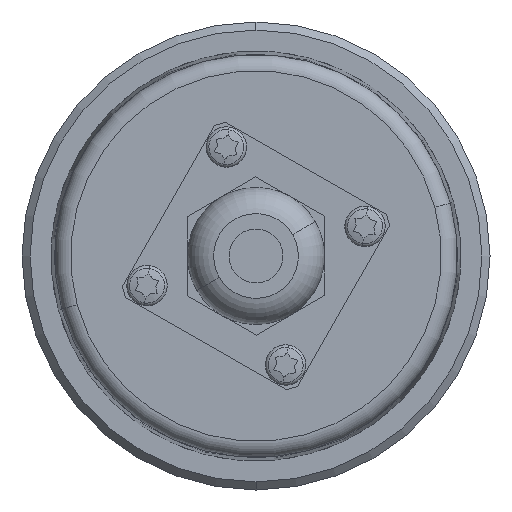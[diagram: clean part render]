
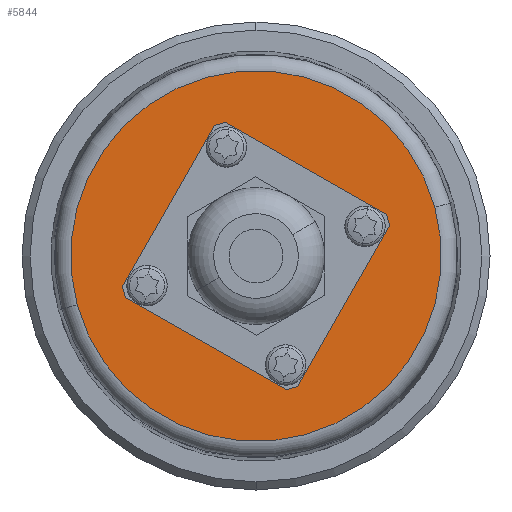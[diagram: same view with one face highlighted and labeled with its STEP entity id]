
A CAD part, left-side view. The second image highlights one B-rep face of the part: STEP entity #5844.
In plain terms, the highlighted planar face has unit normal (-1, 0, 0).
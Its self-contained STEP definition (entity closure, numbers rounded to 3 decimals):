
#44 = CARTESIAN_POINT ( 'NONE',  ( -21., 22.167, -6.03 ) ) ;
#45 = CARTESIAN_POINT ( 'NONE',  ( -21., -22.167, 6.03 ) ) ;
#46 = DIRECTION ( 'NONE',  ( 0., 0.965, -0.262 ) ) ;
#47 = DIRECTION ( 'NONE',  ( -1., 0., 0. ) ) ;
#48 = CARTESIAN_POINT ( 'NONE',  ( -21., 0., 0. ) ) ;
#49 = AXIS2_PLACEMENT_3D ( 'NONE', #48, #47, #46 ) ;
#50 = CIRCLE ( 'NONE', #49, 22.972 ) ;
#1053 = AXIS2_PLACEMENT_3D ( 'NONE', #1166, #1165, #1164 ) ;
#1054 = CIRCLE ( 'NONE', #1053, 1.389 ) ;
#1055 = CARTESIAN_POINT ( 'NONE',  ( -21., 3.675, 13.51 ) ) ;
#1056 = CARTESIAN_POINT ( 'NONE',  ( -21., 2.335, 13.874 ) ) ;
#1057 = CARTESIAN_POINT ( 'NONE',  ( -21., 5.015, 13.145 ) ) ;
#1058 = DIRECTION ( 'NONE',  ( 0., 0.965, -0.262 ) ) ;
#1059 = DIRECTION ( 'NONE',  ( 1., 0., 0. ) ) ;
#1060 = CARTESIAN_POINT ( 'NONE',  ( -21., 3.675, 13.51 ) ) ;
#1061 = AXIS2_PLACEMENT_3D ( 'NONE', #1060, #1059, #1058 ) ;
#1062 = CIRCLE ( 'NONE', #1061, 1.389 ) ;
#1063 = DIRECTION ( 'NONE',  ( 0., 0.965, -0.262 ) ) ;
#1064 = DIRECTION ( 'NONE',  ( 1., 0., 0. ) ) ;
#1065 = CARTESIAN_POINT ( 'NONE',  ( -21., 13.51, -3.675 ) ) ;
#1066 = AXIS2_PLACEMENT_3D ( 'NONE', #1065, #1064, #1063 ) ;
#1077 = CIRCLE ( 'NONE', #1066, 1.389 ) ;
#1078 = DIRECTION ( 'NONE',  ( 0., 0.965, -0.262 ) ) ;
#1079 = DIRECTION ( 'NONE',  ( 1., 0., 0. ) ) ;
#1080 = CARTESIAN_POINT ( 'NONE',  ( -21., 0., 0. ) ) ;
#1081 = AXIS2_PLACEMENT_3D ( 'NONE', #1080, #1079, #1078 ) ;
#1082 = PLANE ( 'NONE',  #1081 ) ;
#1094 = DIRECTION ( 'NONE',  ( 0., 0.965, -0.262 ) ) ;
#1095 = DIRECTION ( 'NONE',  ( 1., 0., 0. ) ) ;
#1096 = AXIS2_PLACEMENT_3D ( 'NONE', #1103, #1095, #1094 ) ;
#1097 = CIRCLE ( 'NONE', #1096, 1.389 ) ;
#1098 = DIRECTION ( 'NONE',  ( 0., 0.965, -0.262 ) ) ;
#1099 = DIRECTION ( 'NONE',  ( 1., 0., 0. ) ) ;
#1100 = CARTESIAN_POINT ( 'NONE',  ( -21., 13.51, -3.675 ) ) ;
#1101 = AXIS2_PLACEMENT_3D ( 'NONE', #1100, #1099, #1098 ) ;
#1102 = CIRCLE ( 'NONE', #1101, 1.389 ) ;
#1103 = CARTESIAN_POINT ( 'NONE',  ( -21., -3.675, -13.51 ) ) ;
#1104 = CARTESIAN_POINT ( 'NONE',  ( -21., 12.17, -3.31 ) ) ;
#1153 = CARTESIAN_POINT ( 'NONE',  ( -21., -14.85, 4.039 ) ) ;
#1154 = CARTESIAN_POINT ( 'NONE',  ( -21., -12.17, 3.31 ) ) ;
#1155 = DIRECTION ( 'NONE',  ( 0., 0.965, -0.262 ) ) ;
#1156 = DIRECTION ( 'NONE',  ( 1., 0., 0. ) ) ;
#1157 = CARTESIAN_POINT ( 'NONE',  ( -21., -13.51, 3.675 ) ) ;
#1158 = AXIS2_PLACEMENT_3D ( 'NONE', #1157, #1156, #1155 ) ;
#1159 = CIRCLE ( 'NONE', #1158, 1.389 ) ;
#1160 = DIRECTION ( 'NONE',  ( 0., 0.965, -0.262 ) ) ;
#1161 = DIRECTION ( 'NONE',  ( 1., 0., 0. ) ) ;
#1162 = AXIS2_PLACEMENT_3D ( 'NONE', #1055, #1161, #1160 ) ;
#1163 = CIRCLE ( 'NONE', #1162, 1.389 ) ;
#1164 = DIRECTION ( 'NONE',  ( 0., 0.965, -0.262 ) ) ;
#1165 = DIRECTION ( 'NONE',  ( 1., 0., 0. ) ) ;
#1166 = CARTESIAN_POINT ( 'NONE',  ( -21., -3.675, -13.51 ) ) ;
#1194 = FACE_BOUND ( 'NONE', #5912, .T. ) ;
#1195 = FACE_OUTER_BOUND ( 'NONE', #5908, .T. ) ;
#1196 = FACE_BOUND ( 'NONE', #5853, .T. ) ;
#1197 = FACE_BOUND ( 'NONE', #5848, .T. ) ;
#1198 = FACE_BOUND ( 'NONE', #5855, .T. ) ;
#1199 = FACE_BOUND ( 'NONE', #5845, .T. ) ;
#1252 = DIRECTION ( 'NONE',  ( 0., -0.965, 0.262 ) ) ;
#1253 = DIRECTION ( 'NONE',  ( -1., 0., 0. ) ) ;
#1254 = CARTESIAN_POINT ( 'NONE',  ( -21., 0., 0. ) ) ;
#1255 = AXIS2_PLACEMENT_3D ( 'NONE', #1254, #1253, #1252 ) ;
#1256 = CIRCLE ( 'NONE', #1255, 11.5 ) ;
#1258 = CARTESIAN_POINT ( 'NONE',  ( -21., 11.097, -3.018 ) ) ;
#1259 = CARTESIAN_POINT ( 'NONE',  ( -21., -11.097, 3.018 ) ) ;
#1405 = DIRECTION ( 'NONE',  ( 0., -0.965, 0.262 ) ) ;
#1406 = DIRECTION ( 'NONE',  ( -1., 0., 0. ) ) ;
#1407 = CARTESIAN_POINT ( 'NONE',  ( -21., 0., 0. ) ) ;
#1408 = AXIS2_PLACEMENT_3D ( 'NONE', #1407, #1406, #1405 ) ;
#1409 = CIRCLE ( 'NONE', #1408, 11.5 ) ;
#1410 = CARTESIAN_POINT ( 'NONE',  ( -21., 14.85, -4.039 ) ) ;
#1416 = CARTESIAN_POINT ( 'NONE',  ( -21., -5.015, -13.145 ) ) ;
#1417 = CARTESIAN_POINT ( 'NONE',  ( -21., -2.335, -13.874 ) ) ;
#1418 = DIRECTION ( 'NONE',  ( 0., 0.965, -0.262 ) ) ;
#1419 = DIRECTION ( 'NONE',  ( -1., 0., 0. ) ) ;
#1420 = CARTESIAN_POINT ( 'NONE',  ( -21., 0., 0. ) ) ;
#1421 = AXIS2_PLACEMENT_3D ( 'NONE', #1420, #1419, #1418 ) ;
#1422 = CIRCLE ( 'NONE', #1421, 22.972 ) ;
#1423 = DIRECTION ( 'NONE',  ( 0., 0.965, -0.262 ) ) ;
#1424 = DIRECTION ( 'NONE',  ( 1., 0., 0. ) ) ;
#1425 = AXIS2_PLACEMENT_3D ( 'NONE', #1431, #1424, #1423 ) ;
#1426 = CIRCLE ( 'NONE', #1425, 1.389 ) ;
#1431 = CARTESIAN_POINT ( 'NONE',  ( -21., -13.51, 3.675 ) ) ;
#5521 = EDGE_CURVE ( 'NONE', #5522, #5523, #50, .T. ) ;
#5522 = VERTEX_POINT ( 'NONE', #45 ) ;
#5523 = VERTEX_POINT ( 'NONE', #44 ) ;
#5844 = ADVANCED_FACE ( 'NONE', ( #1199, #1198, #1197, #1196, #1195, #1194 ), #1082, .F. ) ;
#5845 = EDGE_LOOP ( 'NONE', ( #5846, #5868 ) ) ;
#5846 = ORIENTED_EDGE ( 'NONE', *, *, #5847, .T. ) ;
#5847 = EDGE_CURVE ( 'NONE', #5920, #5867, #1077, .T. ) ;
#5848 = EDGE_LOOP ( 'NONE', ( #5849, #5861 ) ) ;
#5849 = ORIENTED_EDGE ( 'NONE', *, *, #5850, .T. ) ;
#5850 = EDGE_CURVE ( 'NONE', #5851, #5852, #1062, .T. ) ;
#5851 = VERTEX_POINT ( 'NONE', #1057 ) ;
#5852 = VERTEX_POINT ( 'NONE', #1056 ) ;
#5853 = EDGE_LOOP ( 'NONE', ( #5863, #5906 ) ) ;
#5855 = EDGE_LOOP ( 'NONE', ( #5856, #5916 ) ) ;
#5856 = ORIENTED_EDGE ( 'NONE', *, *, #5857, .T. ) ;
#5857 = EDGE_CURVE ( 'NONE', #5914, #5915, #1054, .T. ) ;
#5861 = ORIENTED_EDGE ( 'NONE', *, *, #5862, .T. ) ;
#5862 = EDGE_CURVE ( 'NONE', #5852, #5851, #1163, .T. ) ;
#5863 = ORIENTED_EDGE ( 'NONE', *, *, #5864, .T. ) ;
#5864 = EDGE_CURVE ( 'NONE', #5865, #5866, #1159, .T. ) ;
#5865 = VERTEX_POINT ( 'NONE', #1154 ) ;
#5866 = VERTEX_POINT ( 'NONE', #1153 ) ;
#5867 = VERTEX_POINT ( 'NONE', #1104 ) ;
#5868 = ORIENTED_EDGE ( 'NONE', *, *, #5869, .T. ) ;
#5869 = EDGE_CURVE ( 'NONE', #5867, #5920, #1102, .T. ) ;
#5870 = EDGE_CURVE ( 'NONE', #5915, #5914, #1097, .T. ) ;
#5906 = ORIENTED_EDGE ( 'NONE', *, *, #5907, .T. ) ;
#5907 = EDGE_CURVE ( 'NONE', #5866, #5865, #1426, .T. ) ;
#5908 = EDGE_LOOP ( 'NONE', ( #5909, #5911 ) ) ;
#5909 = ORIENTED_EDGE ( 'NONE', *, *, #5910, .T. ) ;
#5910 = EDGE_CURVE ( 'NONE', #5523, #5522, #1422, .T. ) ;
#5911 = ORIENTED_EDGE ( 'NONE', *, *, #5521, .T. ) ;
#5912 = EDGE_LOOP ( 'NONE', ( #5921, #5925 ) ) ;
#5914 = VERTEX_POINT ( 'NONE', #1417 ) ;
#5915 = VERTEX_POINT ( 'NONE', #1416 ) ;
#5916 = ORIENTED_EDGE ( 'NONE', *, *, #5870, .T. ) ;
#5920 = VERTEX_POINT ( 'NONE', #1410 ) ;
#5921 = ORIENTED_EDGE ( 'NONE', *, *, #5922, .F. ) ;
#5922 = EDGE_CURVE ( 'NONE', #5923, #5924, #1409, .T. ) ;
#5923 = VERTEX_POINT ( 'NONE', #1259 ) ;
#5924 = VERTEX_POINT ( 'NONE', #1258 ) ;
#5925 = ORIENTED_EDGE ( 'NONE', *, *, #5926, .F. ) ;
#5926 = EDGE_CURVE ( 'NONE', #5924, #5923, #1256, .T. ) ;
